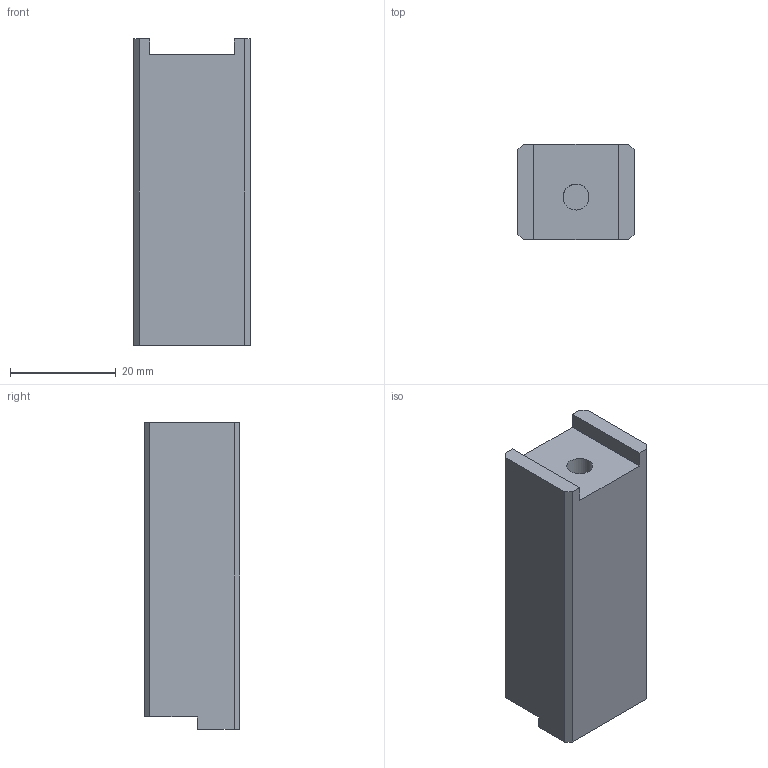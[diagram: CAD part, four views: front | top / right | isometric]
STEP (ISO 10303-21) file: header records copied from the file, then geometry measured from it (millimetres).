
FILE_DESCRIPTION(('CATIA V5 STEP Exchange'),'2;1');
FILE_NAME('G:\够快云库\系统集成开发部\1.部门成员\孙国\工装\气密检测工装\STP\轻卡悬浮阀\GZ-QKQM03_V1 按压头.stp','2021-08-26T02:10:34+00:00',('none'),('none'),'CATIA Version 5 Release 20 GA (IN-10)','CATIA V5 STEP AP214','none');
FILE_SCHEMA(('AUTOMOTIVE_DESIGN { 1 0 10303 214 1 1 1 1 }'));
Length unit declared in the file: millimetre
Products named in the file (1): 按压头
Bounding box: 22 x 18 x 58 mm (x, y, z)
Volume: 21104.5 mm3; surface area: 5569.7 mm2
Topology: 1 solids, 1 shells, 19 faces, 48 edges, 32 vertices
Faces by surface type: plane 17, cylinder 2
Entity records: 574 total; most frequent: CARTESIAN_POINT 98, ORIENTED_EDGE 96, DIRECTION 82, EDGE_CURVE 48, VECTOR 44, LINE 44, VERTEX_POINT 32, AXIS2_PLACEMENT_3D 22
